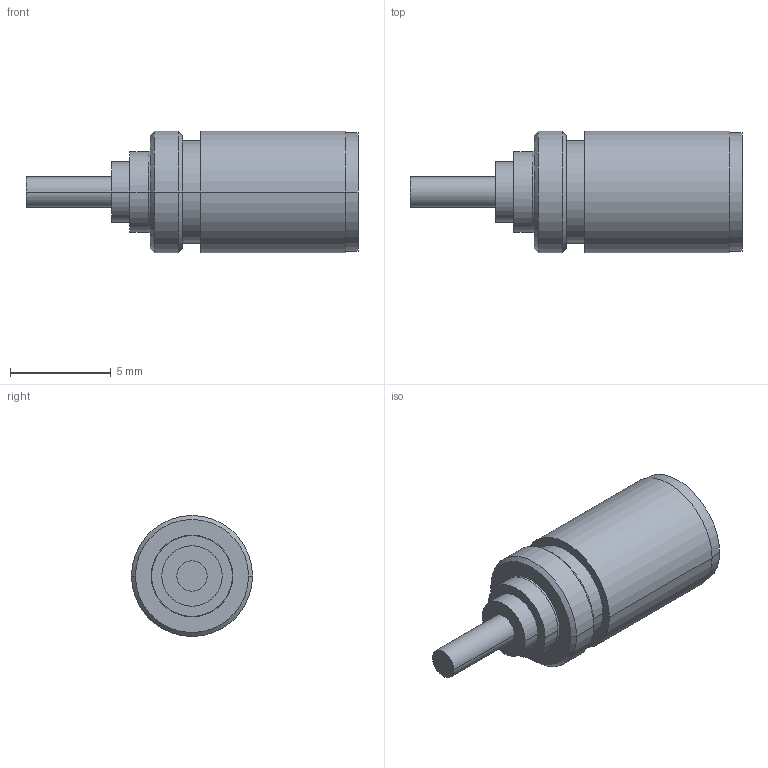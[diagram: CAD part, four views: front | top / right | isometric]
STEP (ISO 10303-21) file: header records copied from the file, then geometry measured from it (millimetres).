
FILE_DESCRIPTION((''),'2;1');
FILE_NAME('1928062','2016-10-04T',('mmagvisi'),(''),'CREO PARAMETRIC BY PTC INC, 2016050','CREO PARAMETRIC BY PTC INC, 2016050','');
FILE_SCHEMA(('CONFIG_CONTROL_DESIGN'));
Length unit declared in the file: millimetre
Products named in the file (1): 1928062
Bounding box: 16.45 x 6 x 6 mm (x, y, z)
Volume: 175.5 mm3; surface area: 416.2 mm2
Topology: 1 solids, 1 shells, 36 faces, 70 edges, 44 vertices
Faces by surface type: cylinder 18, plane 10, cone 8
Entity records: 1038 total; most frequent: DIRECTION 186, CARTESIAN_POINT 150, ORIENTED_EDGE 140, AXIS2_PLACEMENT_3D 80, EDGE_CURVE 70, COLOUR_RGB 58, VERTEX_POINT 44, EDGE_LOOP 44
